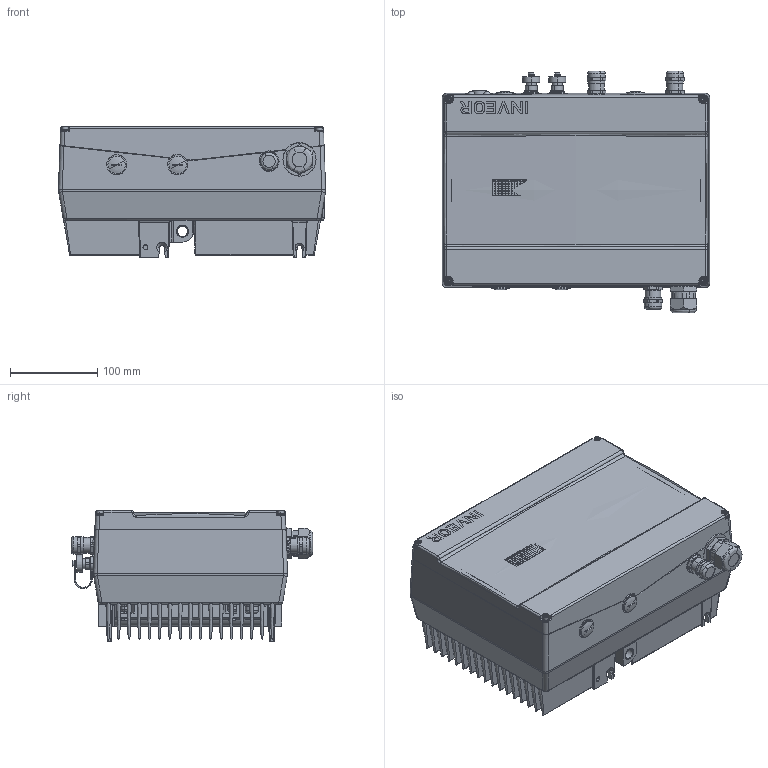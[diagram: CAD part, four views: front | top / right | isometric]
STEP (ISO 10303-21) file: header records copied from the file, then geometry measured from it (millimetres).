
FILE_DESCRIPTION(('CATIA V5 STEP 214'),'2;1');
FILE_NAME('C:\Temp\ddxv6\147890\10025368-1-0000C_ALLCATPART.stp','2011-12-06T15:26:56+00:00',('Leopold Kostal'),('Kostal GmbH'),'CATIA Version 5 Release 19 SP 8 (IN-10)','CATIA V5 STEP AP214','none');
FILE_SCHEMA(('AUTOMOTIVE_DESIGN { 1 0 10303 214 1 1 1 1 }'));
Length unit declared in the file: millimetre
Products named in the file (1): 10025368-1-0000C_AllCATPart
Bounding box: 306.93 x 277.35 x 151.16 mm (x, y, z)
Volume: 2112678.7 mm3; surface area: 726965.5 mm2
Topology: 164 solids, 167 shells, 7469 faces, 19566 edges, 12771 vertices
Faces by surface type: plane 3838, cylinder 1555, extrusion 978, cone 564, torus 294, bspline 216, sphere 20, revolution 4
Entity records: 254525 total; most frequent: CARTESIAN_POINT 92562, ORIENTED_EDGE 38952, DIRECTION 22266, EDGE_CURVE 19482, VERTEX_POINT 12771, VECTOR 11818, LINE 10840, EDGE_LOOP 8203
